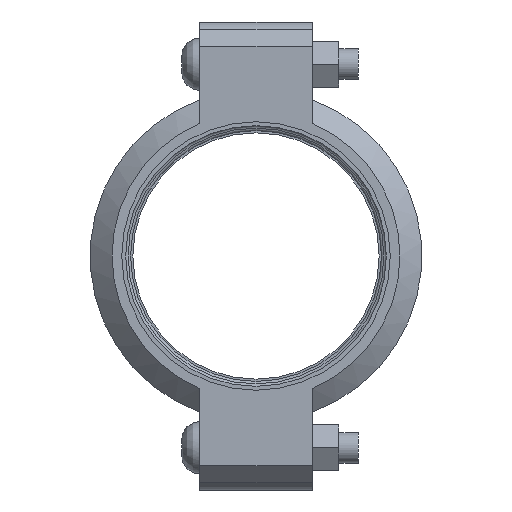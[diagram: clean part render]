
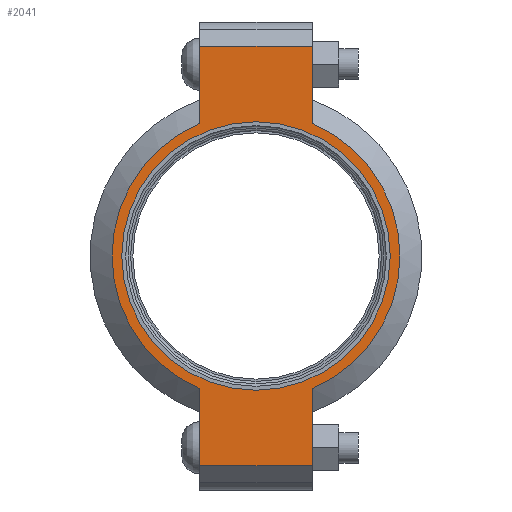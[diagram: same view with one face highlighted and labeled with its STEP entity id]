
A CAD part, left-side view. The second image highlights one B-rep face of the part: STEP entity #2041.
In plain terms, the highlighted planar face has unit normal (-1, 0, 0) as drawn and (0, 0, 1) by its records, which use the part's own axes.
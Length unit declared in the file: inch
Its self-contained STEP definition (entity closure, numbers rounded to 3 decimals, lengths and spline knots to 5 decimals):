
#174=LINE('',#3640,#273);
#182=LINE('',#3676,#281);
#189=LINE('',#3697,#288);
#198=LINE('',#3729,#297);
#199=LINE('',#3733,#298);
#200=LINE('',#3735,#299);
#273=VECTOR('',#2982,0.3937);
#281=VECTOR('',#2998,0.3937);
#288=VECTOR('',#3017,0.3937);
#297=VECTOR('',#3042,0.3937);
#298=VECTOR('',#3047,0.3937);
#299=VECTOR('',#3048,0.3937);
#359=FACE_BOUND('',#629,.T.);
#405=PLANE('',#2406);
#501=FACE_OUTER_BOUND('',#628,.T.);
#628=EDGE_LOOP('',(#1770,#1771,#1772,#1773,#1774,#1775,#1776,#1777));
#629=EDGE_LOOP('',(#1778));
#776=CIRCLE('',#2348,2.75);
#802=CIRCLE('',#2407,2.95);
#803=CIRCLE('',#2408,2.95);
#927=VERTEX_POINT('',#3456);
#970=VERTEX_POINT('',#3637);
#971=VERTEX_POINT('',#3639);
#982=VERTEX_POINT('',#3671);
#983=VERTEX_POINT('',#3675);
#990=VERTEX_POINT('',#3694);
#991=VERTEX_POINT('',#3696);
#1001=VERTEX_POINT('',#3732);
#1002=VERTEX_POINT('',#3734);
#1164=EDGE_CURVE('',#927,#927,#776,.T.);
#1225=EDGE_CURVE('',#971,#970,#174,.T.);
#1239=EDGE_CURVE('',#983,#982,#182,.T.);
#1249=EDGE_CURVE('',#991,#990,#189,.T.);
#1264=EDGE_CURVE('',#983,#970,#198,.T.);
#1265=EDGE_CURVE('',#982,#991,#802,.T.);
#1266=EDGE_CURVE('',#1001,#990,#199,.T.);
#1267=EDGE_CURVE('',#1001,#1002,#200,.T.);
#1268=EDGE_CURVE('',#1002,#971,#803,.T.);
#1770=ORIENTED_EDGE('',*,*,#1264,.F.);
#1771=ORIENTED_EDGE('',*,*,#1239,.T.);
#1772=ORIENTED_EDGE('',*,*,#1265,.T.);
#1773=ORIENTED_EDGE('',*,*,#1249,.T.);
#1774=ORIENTED_EDGE('',*,*,#1266,.F.);
#1775=ORIENTED_EDGE('',*,*,#1267,.T.);
#1776=ORIENTED_EDGE('',*,*,#1268,.T.);
#1777=ORIENTED_EDGE('',*,*,#1225,.T.);
#1778=ORIENTED_EDGE('',*,*,#1164,.T.);
#2041=ADVANCED_FACE('',(#501,#359),#405,.T.);
#2348=AXIS2_PLACEMENT_3D('',#3458,#2858,#2859);
#2406=AXIS2_PLACEMENT_3D('',#3730,#3043,#3044);
#2407=AXIS2_PLACEMENT_3D('',#3731,#3045,#3046);
#2408=AXIS2_PLACEMENT_3D('',#3736,#3049,#3050);
#2858=DIRECTION('center_axis',(0.,0.,-1.));
#2859=DIRECTION('ref_axis',(1.,0.,0.));
#2982=DIRECTION('',(1.,0.,0.));
#2998=DIRECTION('',(-1.,0.,0.));
#3017=DIRECTION('',(-1.,0.,0.));
#3042=DIRECTION('',(0.,-1.,0.));
#3043=DIRECTION('center_axis',(0.,0.,1.));
#3044=DIRECTION('ref_axis',(-1.,0.,0.));
#3045=DIRECTION('center_axis',(0.,0.,1.));
#3046=DIRECTION('ref_axis',(1.,0.,0.));
#3047=DIRECTION('',(0.,1.,0.));
#3048=DIRECTION('',(1.,0.,0.));
#3049=DIRECTION('center_axis',(0.,0.,1.));
#3050=DIRECTION('ref_axis',(1.,0.,0.));
#3456=CARTESIAN_POINT('',(-2.75,0.,1.065));
#3458=CARTESIAN_POINT('Origin',(0.,0.,1.065));
#3637=CARTESIAN_POINT('',(4.295,-1.15,1.065));
#3639=CARTESIAN_POINT('',(2.71662,-1.15,1.065));
#3640=CARTESIAN_POINT('',(4.795,-1.15,1.065));
#3671=CARTESIAN_POINT('',(2.71662,1.15,1.065));
#3675=CARTESIAN_POINT('',(4.295,1.15,1.065));
#3676=CARTESIAN_POINT('',(-4.795,1.15,1.065));
#3694=CARTESIAN_POINT('',(-4.295,1.15,1.065));
#3696=CARTESIAN_POINT('',(-2.71662,1.15,1.065));
#3697=CARTESIAN_POINT('',(-4.795,1.15,1.065));
#3729=CARTESIAN_POINT('',(4.295,-0.575,1.065));
#3730=CARTESIAN_POINT('Origin',(0.,0.,
1.065));
#3731=CARTESIAN_POINT('Origin',(0.,0.,1.065));
#3732=CARTESIAN_POINT('',(-4.295,-1.15,1.065));
#3733=CARTESIAN_POINT('',(-4.295,0.575,1.065));
#3734=CARTESIAN_POINT('',(-2.71662,-1.15,1.065));
#3735=CARTESIAN_POINT('',(4.795,-1.15,1.065));
#3736=CARTESIAN_POINT('Origin',(0.,0.,1.065));
